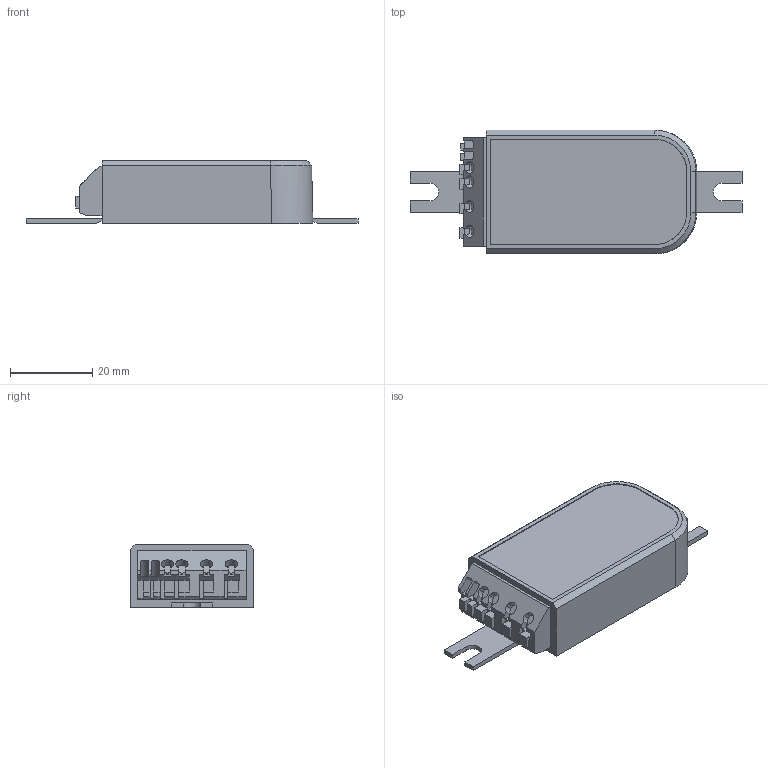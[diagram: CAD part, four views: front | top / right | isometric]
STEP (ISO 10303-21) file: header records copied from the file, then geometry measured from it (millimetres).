
FILE_DESCRIPTION((''),'2;1');
FILE_NAME('15014409Z_DATAMEC','2021-04-13T15:41:18',('Juergen.Hrach'),(''),'CREO PARAMETRIC BY PTC INC, 2019164','CREO PARAMETRIC BY PTC INC, 2019164','');
FILE_SCHEMA(('CONFIG_CONTROL_DESIGN'));
Length unit declared in the file: millimetre
Products named in the file (1): 15014409Z_DATAMEC
Bounding box: 80.7 x 30 x 15.3 mm (x, y, z)
Volume: 24000.6 mm3; surface area: 6450.9 mm2
Topology: 1 solids, 1 shells, 137 faces, 377 edges, 245 vertices
Faces by surface type: plane 119, cylinder 14, bspline 2, extrusion 2
Entity records: 4499 total; most frequent: CARTESIAN_POINT 993, ORIENTED_EDGE 754, DIRECTION 655, EDGE_CURVE 377, VECTOR 337, LINE 335, VERTEX_POINT 245, AXIS2_PLACEMENT_3D 159
